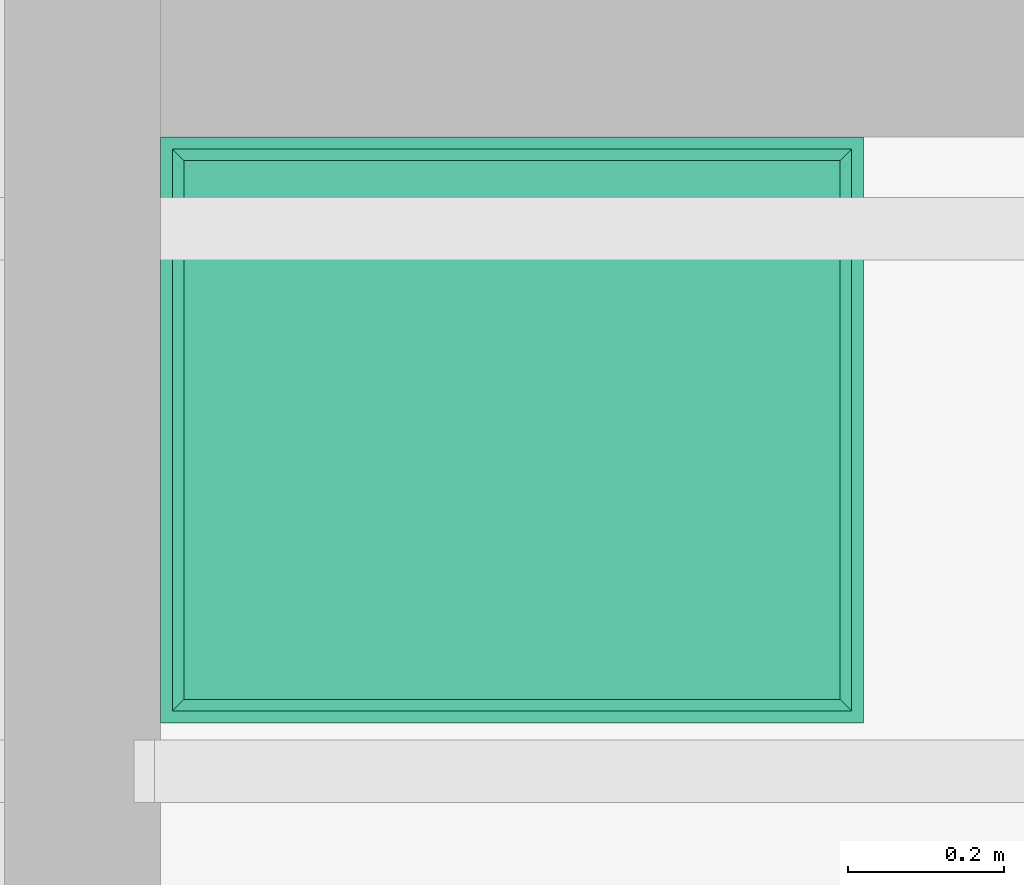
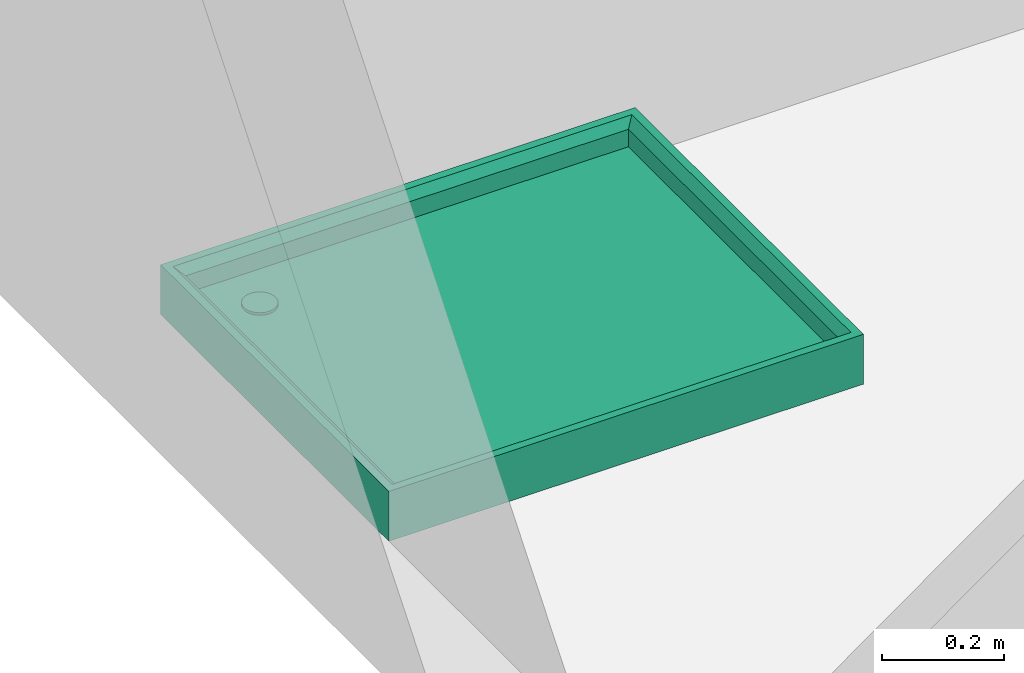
# One storey, part 18 of 18: 1 flow terminal.
"""IFC2X3 building model written with IfcOpenShell, lengths in metres."""

from ifc_helpers import new_model, entity, si_unit, converted_unit, derived_unit, direction, frame, frame_2d, origin, place, context, subcontext, project, spatial, circle, extrude, faceted_brep, source, transform, mapped, material, material_list, type_object, type_shapes, element, save


model = new_model("IFC2X3")

# Units and contexts
model_context = context("Model", 3, precision=1e-05, world=origin(), true_north=direction((6.123233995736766e-17, 1.0)))
body_context = subcontext(model_context, "Body", "Model", "MODEL_VIEW")
ifc_project = project(units=[si_unit("LENGTHUNIT", "METRE"), si_unit("AREAUNIT", "SQUARE_METRE"), si_unit("VOLUMEUNIT", "CUBIC_METRE"), si_unit("POWERUNIT", "WATT"), derived_unit("USERDEFINED", [(si_unit("MASSUNIT", "GRAM", prefix="KILO"), 1), (si_unit("TIMEUNIT", "SECOND"), -3)]), derived_unit("THERMALRESISTANCEUNIT", [(si_unit("MASSUNIT", "GRAM", prefix="KILO"), -1), (si_unit("TIMEUNIT", "SECOND"), 3), (si_unit("THERMODYNAMICTEMPERATUREUNIT", "KELVIN"), 1)]), derived_unit("USERDEFINED", [(si_unit("MASSUNIT", "GRAM", prefix="KILO"), 1), (si_unit("TIMEUNIT", "SECOND"), -2), (si_unit("THERMODYNAMICTEMPERATUREUNIT", "KELVIN"), -1)]), derived_unit("THERMALTRANSMITTANCEUNIT", [(si_unit("MASSUNIT", "GRAM", prefix="KILO"), 1), (si_unit("TIMEUNIT", "SECOND"), -3), (si_unit("THERMODYNAMICTEMPERATUREUNIT", "KELVIN"), -1)]), converted_unit("PLANEANGLEUNIT", "DEGREE", entity("IfcPlaneAngleMeasure", 0.017453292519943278), si_unit("PLANEANGLEUNIT", "RADIAN"), dimensions=[0, 0, 0, 0, 0, 0, 0]), derived_unit("MOMENTOFINERTIAUNIT", [(si_unit("LENGTHUNIT", "METRE"), 4)])], contexts=[model_context])

# Site, building, storey, space
site_placement = place(None, origin())
site = spatial("IfcSite", under=ifc_project, at=site_placement, Name="Default", CompositionType="ELEMENT")
building_placement = place(site_placement, origin())
building = spatial("IfcBuilding", under=site, at=building_placement, CompositionType="ELEMENT")
storey_placement = place(building_placement, frame((0.0, 0.0, 5.4)))
storey = spatial("IfcBuildingStorey", under=building, at=storey_placement, Name="1. Obergeschoss", CompositionType="ELEMENT", Elevation=5.4)
space_placement = place(storey_placement, origin())
space = spatial("IfcSpace", under=storey, at=space_placement, Name="22", CompositionType="ELEMENT", InteriorOrExteriorSpace="INTERNAL")

# Flow terminal
ifc_material_1 = material(Name="Metall - Edelstahl satiniert")
ifc_material_2 = material(Name="Keramik - weiß 255_255_255")
ifc_material_list = material_list([ifc_material_1, ifc_material_2])
distribution_element_type = type_object("IfcDistributionElementType", Name="Duschwanne 01:750x900", material=ifc_material_list)
shared_shape = source(origin(), body_context, "Body", "SolidModel", [
    extrude(circle(Radius=0.03, at=frame_2d((0.0, -5.075939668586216e-17), x_axis=(1.0, 0.0))), frame((0.11928932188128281, 0.11928932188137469, 0.049999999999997)), (0.0, 0.0, 1.0), 0.005000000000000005),
    faceted_brep([(0.030000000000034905, 0.8700000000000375, 0.04999999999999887), (0.030000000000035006, 0.030000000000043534, 0.04999999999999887), (0.7200000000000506, 0.03000000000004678, 0.04999999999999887), (0.7200000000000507, 0.8700000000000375, 0.04999999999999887), (0.7500000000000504, 0.9000000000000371, 0.0), (0.7500000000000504, 0.0, 0.0), (0.0, 0.0, 0.0), (0.0, 0.9000000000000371, 0.0), (0.0, 0.9000000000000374, 0.09999999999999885), (0.7500000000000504, 0.9000000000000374, 0.09999999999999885), (0.0, 0.0, 0.09999999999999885), (0.7500000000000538, 0.0, 0.09999999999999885), (0.03000000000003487, 0.8700000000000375, 0.08499999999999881), (0.015000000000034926, 0.8850000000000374, 0.09999999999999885), (0.015000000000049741, 0.01500000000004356, 0.09999999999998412), (0.030000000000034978, 0.030000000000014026, 0.08499999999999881), (0.7350000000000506, 0.015000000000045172, 0.09999999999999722), (0.7200000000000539, 0.03000000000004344, 0.08499999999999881), (0.7350000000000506, 0.8850000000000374, 0.09999999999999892), (0.7200000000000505, 0.8700000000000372, 0.08499999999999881)], [[[0, 1, 2, 3]], [[4, 5, 6, 7]], [[4, 7, 8, 9]], [[8, 7, 6, 10]], [[10, 6, 5, 11]], [[11, 5, 4, 9]], [[12, 13, 14, 15]], [[12, 15, 1, 0]], [[15, 14, 16, 17]], [[1, 15, 17, 2]], [[17, 16, 18, 19]], [[2, 17, 19, 3]], [[8, 10, 11, 9], [14, 13, 18, 16]], [[13, 12, 19, 18]], [[12, 0, 3, 19]]]),
])
type_shapes(distribution_element_type, [shared_shape])
flow_terminal_placement = place(space_placement, frame((33.265260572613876, 24.882272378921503, 0.0), z_axis=(0.0, 0.0, 1.0), x_axis=(0.0, -1.0, 0.0)))
element("IfcFlowTerminal", 1, at=flow_terminal_placement, inside=space, type_object=distribution_element_type, material=ifc_material_list, Name="Duschwanne 01:750x900", ObjectType="Duschwanne 01:750x900", context=body_context, shape_type="MappedRepresentation", body=[
    mapped(shared_shape, transform((0.0, 0.0, 0.0), scale=1.0)),
])

save(model, "model.ifc")
